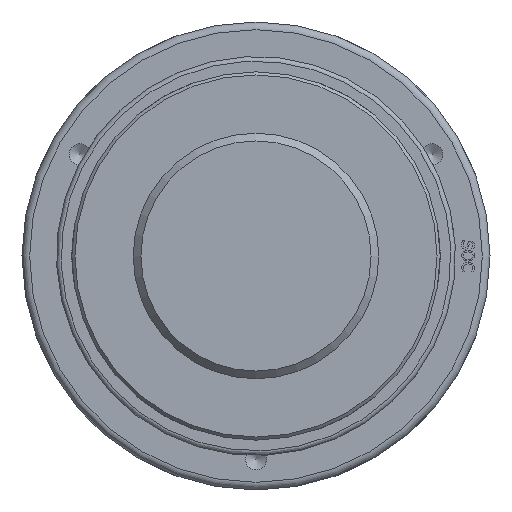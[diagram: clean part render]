
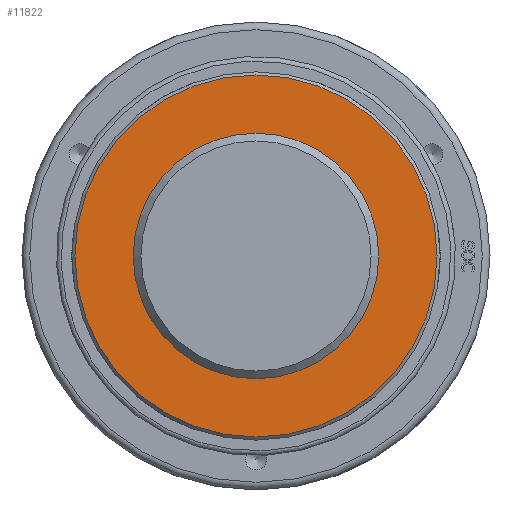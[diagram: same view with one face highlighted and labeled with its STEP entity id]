
A CAD part, front view. The second image highlights one B-rep face of the part: STEP entity #11822.
In plain terms, the highlighted planar face has unit normal (0, -1, 0) as drawn and (0, 1, 0) by its records, which use the part's own axes.
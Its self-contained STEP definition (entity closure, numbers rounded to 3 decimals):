
#90=CIRCLE('',#12465,118.);
#92=CIRCLE('',#12469,76.753);
#171=FACE_BOUND('',#2135,.T.);
#1418=FACE_OUTER_BOUND('',#2134,.T.);
#2134=EDGE_LOOP('',(#9348));
#2135=EDGE_LOOP('',(#9349));
#5324=VERTEX_POINT('',#17978);
#5338=VERTEX_POINT('',#18218);
#6775=EDGE_CURVE('',#5324,#5324,#90,.T.);
#6789=EDGE_CURVE('',#5338,#5338,#92,.T.);
#9348=ORIENTED_EDGE('',*,*,#6775,.F.);
#9349=ORIENTED_EDGE('',*,*,#6789,.T.);
#11349=PLANE('',#12468);
#11822=ADVANCED_FACE('',(#1418,#171),#11349,.T.);
#12465=AXIS2_PLACEMENT_3D('',#17979,#13676,#13677);
#12468=AXIS2_PLACEMENT_3D('',#18217,#13682,#13683);
#12469=AXIS2_PLACEMENT_3D('',#18219,#13684,#13685);
#13676=DIRECTION('center_axis',(0.,-1.,0.));
#13677=DIRECTION('ref_axis',(1.,0.,0.));
#13682=DIRECTION('center_axis',(0.,1.,0.));
#13683=DIRECTION('ref_axis',(0.,0.,1.));
#13684=DIRECTION('center_axis',(0.,-1.,0.));
#13685=DIRECTION('ref_axis',(1.,0.,0.));
#17978=CARTESIAN_POINT('',(-118.,80.,0.));
#17979=CARTESIAN_POINT('Origin',(0.,80.,0.));
#18217=CARTESIAN_POINT('Origin',(0.,80.,0.));
#18218=CARTESIAN_POINT('',(-76.753,80.,0.));
#18219=CARTESIAN_POINT('Origin',(0.,80.,0.));
